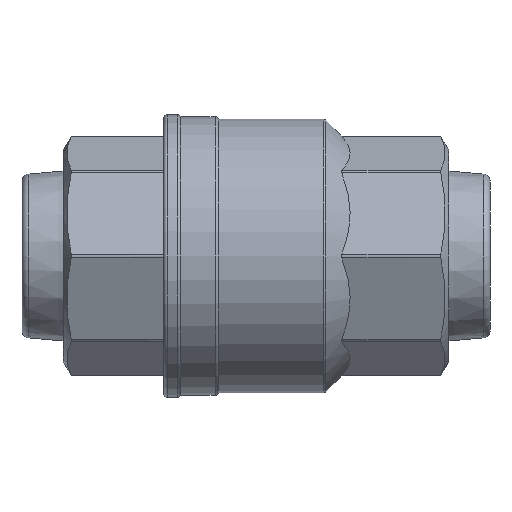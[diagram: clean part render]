
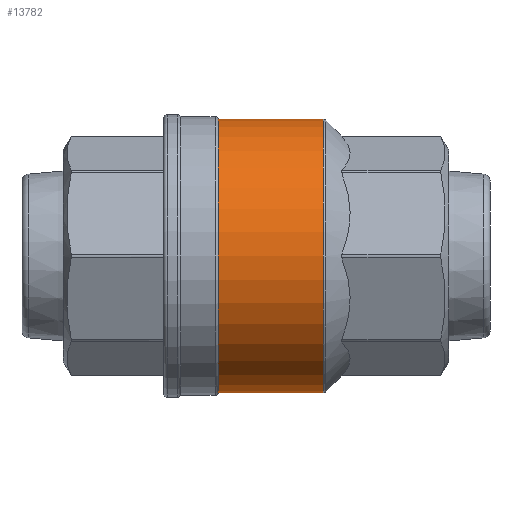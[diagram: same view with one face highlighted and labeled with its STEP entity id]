
A CAD part, front view. The second image highlights one B-rep face of the part: STEP entity #13782.
In plain terms, the highlighted cylindrical face has radius 80 mm (diameter 160 mm), a partial arc.
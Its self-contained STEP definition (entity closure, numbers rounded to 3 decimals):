
#529 = CIRCLE ( 'NONE', #535, 80. ) ;
#531 = CIRCLE ( 'NONE', #533, 80. ) ;
#533 = AXIS2_PLACEMENT_3D ( 'NONE', #3143, #3144, #3145 ) ;
#535 = AXIS2_PLACEMENT_3D ( 'NONE', #3146, #3147, #3148 ) ;
#1851 = CARTESIAN_POINT ( 'NONE',  ( 39.172, 0., 80. ) ) ;
#1854 = CARTESIAN_POINT ( 'NONE',  ( 39.172, 0., -80. ) ) ;
#3143 = CARTESIAN_POINT ( 'NONE',  ( -22., 0., 0. ) ) ;
#3144 = DIRECTION ( 'NONE',  ( 1., 0., 0. ) ) ;
#3145 = DIRECTION ( 'NONE',  ( 0., 0., 1. ) ) ;
#3146 = CARTESIAN_POINT ( 'NONE',  ( 39.172, 0., 0. ) ) ;
#3147 = DIRECTION ( 'NONE',  ( -1., 0., 0. ) ) ;
#3148 = DIRECTION ( 'NONE',  ( 0., 0., -1. ) ) ;
#4087 = AXIS2_PLACEMENT_3D ( 'NONE', #4961, #4963, #4969 ) ;
#4143 = VECTOR ( 'NONE', #5356, 1000. ) ;
#4151 = VECTOR ( 'NONE', #5359, 1000. ) ;
#4961 = CARTESIAN_POINT ( 'NONE',  ( -22., 0., 0. ) ) ;
#4963 = DIRECTION ( 'NONE',  ( 1., 0., 0. ) ) ;
#4966 = CYLINDRICAL_SURFACE ( 'NONE', #4087, 80. ) ;
#4967 = FACE_OUTER_BOUND ( 'NONE', #8023, .T. ) ;
#4969 = DIRECTION ( 'NONE',  ( 0., 0., -1. ) ) ;
#5347 = CARTESIAN_POINT ( 'NONE',  ( -22., 0., 80. ) ) ;
#5352 = LINE ( 'NONE', #5347, #4143 ) ;
#5356 = DIRECTION ( 'NONE',  ( 1., 0., 0. ) ) ;
#5357 = LINE ( 'NONE', #5358, #4151 ) ;
#5358 = CARTESIAN_POINT ( 'NONE',  ( -22., 0., -80. ) ) ;
#5359 = DIRECTION ( 'NONE',  ( 1., 0., 0. ) ) ;
#5665 = VERTEX_POINT ( 'NONE', #8409 ) ;
#5667 = VERTEX_POINT ( 'NONE', #8411 ) ;
#6423 = ORIENTED_EDGE ( 'NONE', *, *, #13841, .F. ) ;
#6425 = ORIENTED_EDGE ( 'NONE', *, *, #9881, .T. ) ;
#6427 = ORIENTED_EDGE ( 'NONE', *, *, #13842, .T. ) ;
#6429 = ORIENTED_EDGE ( 'NONE', *, *, #9882, .T. ) ;
#8023 = EDGE_LOOP ( 'NONE', ( #6423, #6425, #6427, #6429 ) ) ;
#8409 = CARTESIAN_POINT ( 'NONE',  ( -22., 0., 80. ) ) ;
#8411 = CARTESIAN_POINT ( 'NONE',  ( -22., 0., -80. ) ) ;
#9881 = EDGE_CURVE ( 'NONE', #5665, #5667, #531, .T. ) ;
#9882 = EDGE_CURVE ( 'NONE', #13561, #13558, #529, .T. ) ;
#13558 = VERTEX_POINT ( 'NONE', #1851 ) ;
#13561 = VERTEX_POINT ( 'NONE', #1854 ) ;
#13782 = ADVANCED_FACE ( 'NONE', ( #4967 ), #4966, .T. ) ;
#13841 = EDGE_CURVE ( 'NONE', #5665, #13558, #5352, .T. ) ;
#13842 = EDGE_CURVE ( 'NONE', #5667, #13561, #5357, .T. ) ;
